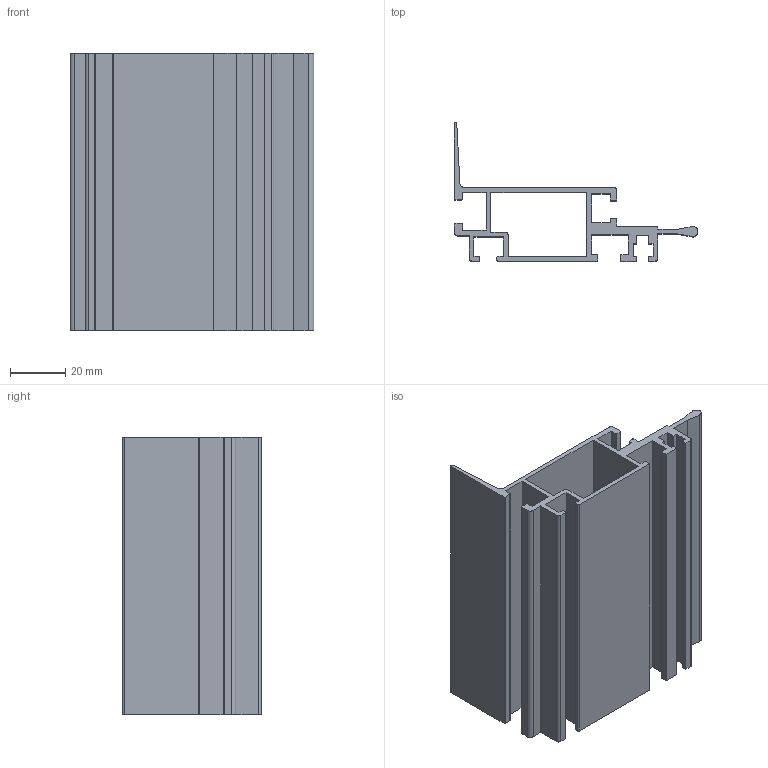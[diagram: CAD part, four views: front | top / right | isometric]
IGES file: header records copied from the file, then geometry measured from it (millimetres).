
Start section: SolidWorks IGES file using analytic representation for surfaces
Global section: file name: C:\Documents and Settings\URETIM3\Desktop\yeni katalog tolgay düzenli\C kataloðu\50x88konveyör yan þase alüminyum profil eloksallý\765 050 089.IGS; native system: SolidWorks 2006 by SolidWorks Corporation; preprocessor: SolidWorks 2006 by SolidWorks Corporation; author: URETIM3; date: 060912.104540; units: millimetre
Bounding box: 88 x 50 x 100 mm (x, y, z)
Surface area: 53568.1 mm2 (no closed solid volume)
Topology: 0 solids, 0 shells, 86 faces, 704 edges, 704 vertices
Faces by surface type: bspline 66, revolution 20
